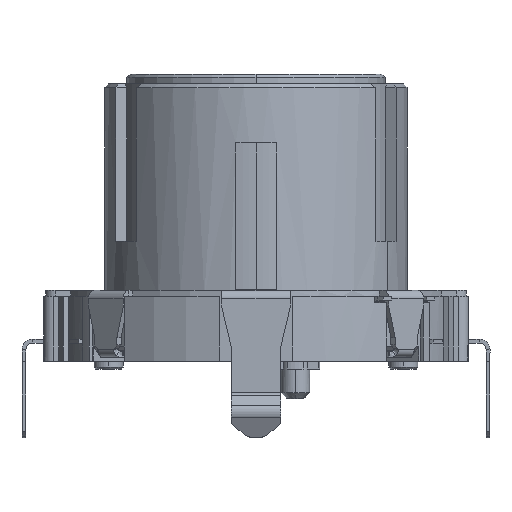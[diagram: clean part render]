
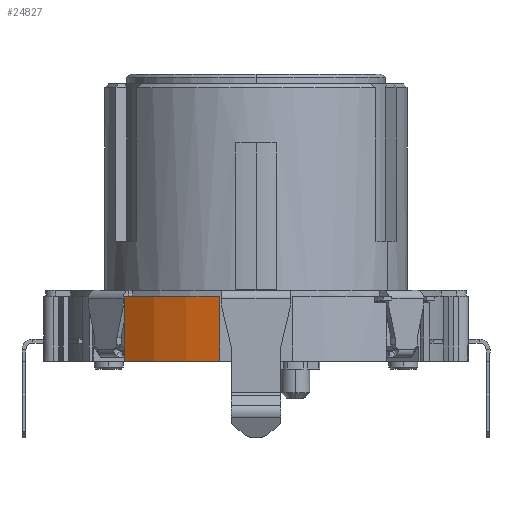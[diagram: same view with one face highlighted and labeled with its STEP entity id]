
A CAD part, left-side view. The second image highlights one B-rep face of the part: STEP entity #24827.
In plain terms, the highlighted cylindrical face has radius 10.8 mm (diameter 21.6 mm), a partial arc.
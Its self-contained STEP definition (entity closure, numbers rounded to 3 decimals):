
#2385 = EDGE_CURVE ( 'NONE', #9899, #31081, #24666, .T. ) ;
#3252 = ORIENTED_EDGE ( 'NONE', *, *, #15379, .F. ) ;
#3924 = CARTESIAN_POINT ( 'NONE',  ( -8.477, 6.692, 2.375 ) ) ;
#4344 = DIRECTION ( 'NONE',  ( 0., 0., -1. ) ) ;
#6359 = LINE ( 'NONE', #21955, #18856 ) ;
#9247 = ORIENTED_EDGE ( 'NONE', *, *, #2385, .T. ) ;
#9899 = VERTEX_POINT ( 'NONE', #3924 ) ;
#10473 = VERTEX_POINT ( 'NONE', #26179 ) ;
#11546 = VECTOR ( 'NONE', #31458, 1000. ) ;
#11642 = ORIENTED_EDGE ( 'NONE', *, *, #30681, .F. ) ;
#12102 = DIRECTION ( 'NONE',  ( 0., 0., 1. ) ) ;
#12653 = CARTESIAN_POINT ( 'NONE',  ( -8.477, 6.692, -0.925 ) ) ;
#13571 = DIRECTION ( 'NONE',  ( 0., 0., 1. ) ) ;
#13989 = AXIS2_PLACEMENT_3D ( 'NONE', #26844, #12102, #29281 ) ;
#14894 = EDGE_LOOP ( 'NONE', ( #9247, #22204, #3252, #11642 ) ) ;
#15379 = EDGE_CURVE ( 'NONE', #10473, #21606, #6359, .T. ) ;
#16221 = CYLINDRICAL_SURFACE ( 'NONE', #20271, 10.8 ) ;
#18402 = CIRCLE ( 'NONE', #25851, 10.8 ) ;
#18856 = VECTOR ( 'NONE', #26912, 1000. ) ;
#20271 = AXIS2_PLACEMENT_3D ( 'NONE', #29112, #4344, #24342 ) ;
#21606 = VERTEX_POINT ( 'NONE', #27008 ) ;
#21955 = CARTESIAN_POINT ( 'NONE',  ( -10.64, 1.85, -0.925 ) ) ;
#22204 = ORIENTED_EDGE ( 'NONE', *, *, #25992, .T. ) ;
#24129 = CARTESIAN_POINT ( 'NONE',  ( -8.477, 6.692, -0.925 ) ) ;
#24342 = DIRECTION ( 'NONE',  ( -1., 0., 0. ) ) ;
#24666 = LINE ( 'NONE', #12653, #11546 ) ;
#24827 = ADVANCED_FACE ( 'NONE', ( #25052 ), #16221, .T. ) ;
#25052 = FACE_OUTER_BOUND ( 'NONE', #14894, .T. ) ;
#25851 = AXIS2_PLACEMENT_3D ( 'NONE', #28231, #13571, #30667 ) ;
#25992 = EDGE_CURVE ( 'NONE', #31081, #21606, #18402, .T. ) ;
#26179 = CARTESIAN_POINT ( 'NONE',  ( -10.64, 1.85, 2.375 ) ) ;
#26562 = CIRCLE ( 'NONE', #13989, 10.8 ) ;
#26844 = CARTESIAN_POINT ( 'NONE',  ( 0., 0., 2.375 ) ) ;
#26912 = DIRECTION ( 'NONE',  ( 0., 0., -1. ) ) ;
#27008 = CARTESIAN_POINT ( 'NONE',  ( -10.64, 1.85, -0.925 ) ) ;
#28231 = CARTESIAN_POINT ( 'NONE',  ( 0., 0., -0.925 ) ) ;
#29112 = CARTESIAN_POINT ( 'NONE',  ( 0., 0., -0.925 ) ) ;
#29281 = DIRECTION ( 'NONE',  ( 1., 0., 0. ) ) ;
#30667 = DIRECTION ( 'NONE',  ( 1., 0., 0. ) ) ;
#30681 = EDGE_CURVE ( 'NONE', #9899, #10473, #26562, .T. ) ;
#31081 = VERTEX_POINT ( 'NONE', #24129 ) ;
#31458 = DIRECTION ( 'NONE',  ( 0., 0., -1. ) ) ;
